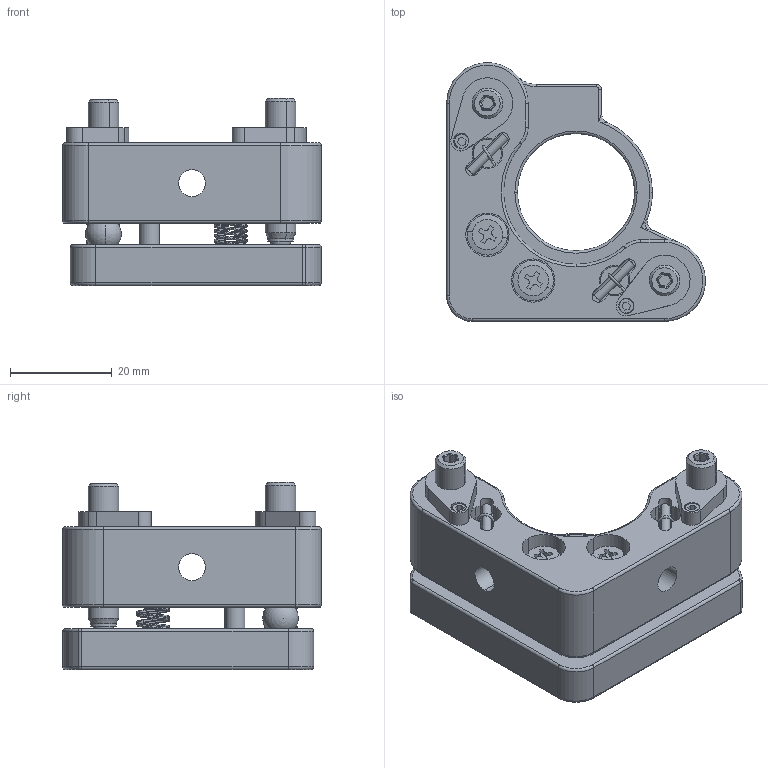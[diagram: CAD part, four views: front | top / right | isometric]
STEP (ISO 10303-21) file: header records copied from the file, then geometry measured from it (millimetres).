
FILE_DESCRIPTION (( 'STEP AP203' ), '1' );
FILE_NAME ('¹s¥ó8.STEP', '2020-05-18T03:18:19', ( '¦K¬P' ), ( '' ), 'SwSTEP 2.0', 'SolidWorks 2019', '' );
FILE_SCHEMA (( 'CONFIG_CONTROL_DESIGN' ));
Length unit declared in the file: millimetre
Products named in the file (2): 零件8
Bounding box: 50.8 x 50.8 x 36.74 mm (x, y, z)
Surface area: 16192.1 mm2 (no closed solid volume)
Topology: 0 solids, 25 shells, 750 faces, 1790 edges, 1097 vertices
Faces by surface type: cylinder 360, plane 198, torus 88, cone 64, sphere 22, bspline 18
Entity records: 31243 total; most frequent: CARTESIAN_POINT 14012, DIRECTION 3760, ORIENTED_EDGE 3486, EDGE_CURVE 1749, AXIS2_PLACEMENT_3D 1512, VERTEX_POINT 1090, EDGE_LOOP 825, CIRCLE 778
